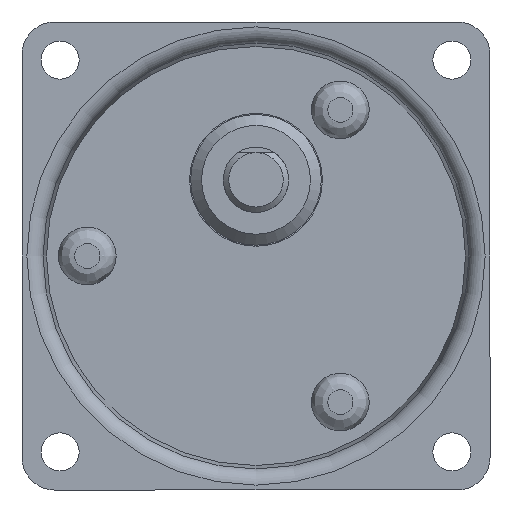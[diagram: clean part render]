
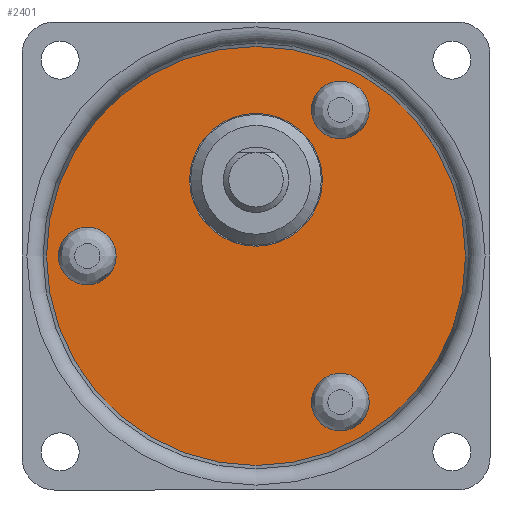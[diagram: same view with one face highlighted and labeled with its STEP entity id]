
A CAD part, front view. The second image highlights one B-rep face of the part: STEP entity #2401.
In plain terms, the highlighted planar face has unit normal (0, -1, 0).
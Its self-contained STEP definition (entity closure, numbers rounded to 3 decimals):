
#1916=CARTESIAN_POINT('',(6.425,-3.65,-11.128));
#1917=VERTEX_POINT('',#1916);
#1918=CARTESIAN_POINT('',(7.75,-3.65,-13.423));
#1919=DIRECTION('',(0.,1.,0.));
#1920=DIRECTION('',(0.5,0.,-0.866));
#1921=AXIS2_PLACEMENT_3D('',#1918,#1919,#1920);
#1922=CIRCLE('',#1921,2.65);
#1923=EDGE_CURVE('',#1917,#1917,#1922,.T.);
#2021=CARTESIAN_POINT('',(6.425,-3.65,11.128));
#2022=VERTEX_POINT('',#2021);
#2023=CARTESIAN_POINT('',(7.75,-3.65,13.423));
#2024=DIRECTION('',(0.,1.,0.));
#2025=DIRECTION('',(0.5,0.,0.866));
#2026=AXIS2_PLACEMENT_3D('',#2023,#2024,#2025);
#2027=CIRCLE('',#2026,2.65);
#2028=EDGE_CURVE('',#2022,#2022,#2027,.T.);
#2126=CARTESIAN_POINT('',(-12.85,-3.65,0.));
#2127=VERTEX_POINT('',#2126);
#2128=CARTESIAN_POINT('',(-15.5,-3.65,0.));
#2129=DIRECTION('',(0.0,1.0,0.0));
#2130=DIRECTION('',(-1.0,0.0,0.0));
#2131=AXIS2_PLACEMENT_3D('',#2128,#2129,#2130);
#2132=CIRCLE('',#2131,2.65);
#2133=EDGE_CURVE('',#2127,#2127,#2132,.T.);
#2158=CARTESIAN_POINT('',(6.1,-3.65,7.));
#2159=VERTEX_POINT('',#2158);
#2160=CARTESIAN_POINT('',(0.,-3.65,7.));
#2161=DIRECTION('',(0.0,1.0,0.0));
#2162=DIRECTION('',(-1.0,0.0,0.0));
#2163=AXIS2_PLACEMENT_3D('',#2160,#2161,#2162);
#2164=CIRCLE('',#2163,6.1);
#2165=EDGE_CURVE('',#2159,#2159,#2164,.T.);
#2243=CARTESIAN_POINT('',(0.,-3.65,-19.25));
#2244=VERTEX_POINT('',#2243);
#2245=CARTESIAN_POINT('',(0.,-3.65,0.));
#2246=DIRECTION('',(0.0,-1.0,0.0));
#2247=DIRECTION('',(0.0,0.0,1.0));
#2248=AXIS2_PLACEMENT_3D('',#2245,#2246,#2247);
#2249=CIRCLE('',#2248,19.25);
#2250=EDGE_CURVE('',#2244,#2244,#2249,.F.);
#2381=CARTESIAN_POINT('',(0.,-3.65,10.059));
#2382=DIRECTION('',(0.0,1.0,0.0));
#2383=DIRECTION('',(0.0,0.0,1.0));
#2384=AXIS2_PLACEMENT_3D('',#2381,#2382,#2383);
#2385=PLANE('',#2384);
#2386=ORIENTED_EDGE('',*,*,#2250,.F.);
#2387=EDGE_LOOP('',(#2386));
#2388=FACE_OUTER_BOUND('',#2387,.T.);
#2389=ORIENTED_EDGE('',*,*,#1923,.T.);
#2390=EDGE_LOOP('',(#2389));
#2391=FACE_BOUND('',#2390,.T.);
#2392=ORIENTED_EDGE('',*,*,#2028,.T.);
#2393=EDGE_LOOP('',(#2392));
#2394=FACE_BOUND('',#2393,.T.);
#2395=ORIENTED_EDGE('',*,*,#2133,.T.);
#2396=EDGE_LOOP('',(#2395));
#2397=FACE_BOUND('',#2396,.T.);
#2398=ORIENTED_EDGE('',*,*,#2165,.T.);
#2399=EDGE_LOOP('',(#2398));
#2400=FACE_BOUND('',#2399,.T.);
#2401=ADVANCED_FACE('',(#2388,#2391,#2394,#2397,#2400),#2385,.F.);
